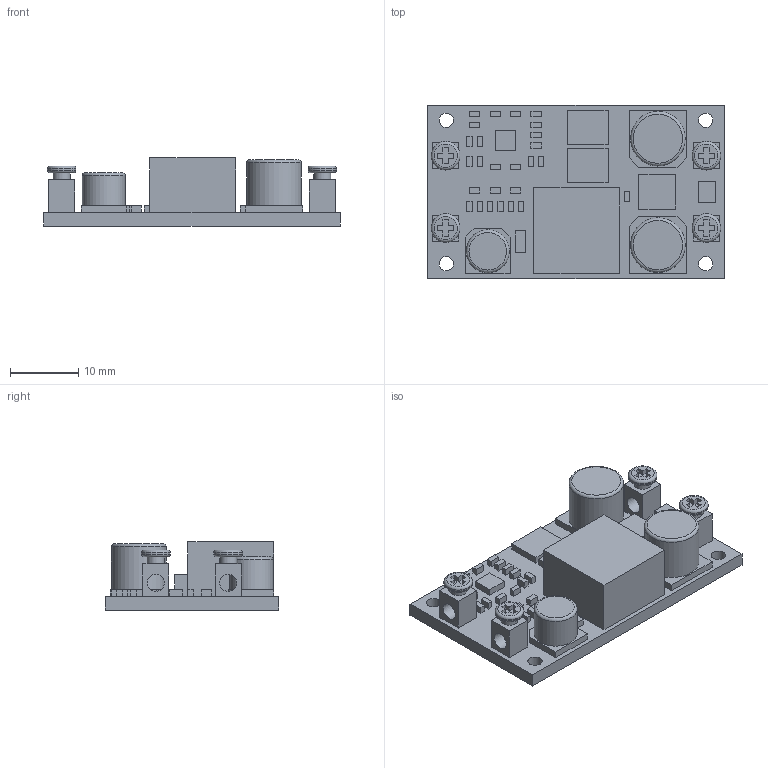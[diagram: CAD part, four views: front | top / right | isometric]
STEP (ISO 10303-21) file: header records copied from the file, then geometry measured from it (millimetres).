
FILE_DESCRIPTION( ( 'STEP AP203' ), '1' );
FILE_NAME( 'E:/Program Files (x86)/Program Files/Files/Design/UHF结构/盒体/功放底板/模型/8.4V-22A.stp', '2026-04-23T08:29:39', ( ' ' ), ( ' ' ), 'XStep 1.0', ' ', ' ' );
FILE_SCHEMA( ( 'CONFIG_CONTROL_DESIGN) ( )' ) );
Length unit declared in the file: metre
Products named in the file (1): 1
Bounding box: 43.4 x 25.4 x 10 mm (x, y, z)
Volume: 4921 mm3; surface area: 4234.3 mm2
Topology: 1 solids, 1 shells, 305 faces, 742 edges, 494 vertices
Faces by surface type: plane 275, cylinder 19, torus 11
Full cylindrical faces by diameter (mm): 2.1 x4, 2.5 x8, 4.2 x4, 6.3 x1, 8 x2
Entity records: 8634 total; most frequent: CARTESIAN_POINT 1494, ORIENTED_EDGE 1406, DIRECTION 1364, EDGE_CURVE 703, LINE 654, VECTOR 654, VERTEX_POINT 485, EDGE_LOOP 406
